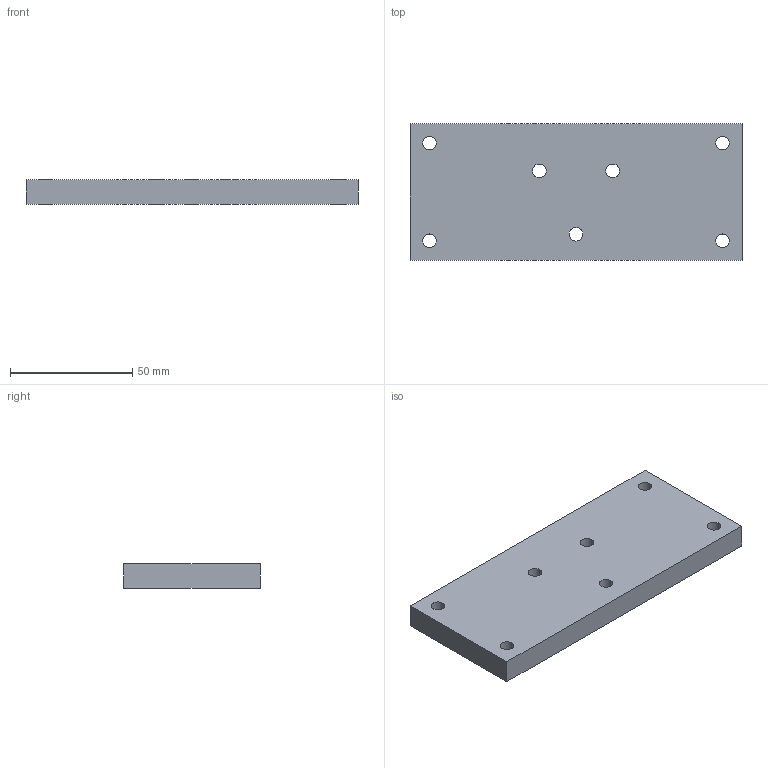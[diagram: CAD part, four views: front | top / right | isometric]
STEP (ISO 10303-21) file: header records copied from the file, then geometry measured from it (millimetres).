
FILE_DESCRIPTION(/* description */ ('STEP AP242','CAx-IF Rec.Pracs.---Representation and Presentation of Product Manufacturing Information (PMI)---4.0---2014-10-13','CAx-IF Rec.Pracs.---3D Tessellated Geometry---0.4---2014-09-14','2;1','CAx-IF Rec.Pracs.---User Defined Attributes---1.5---2016-08-15'),/* implementation_level */ '2;1');
FILE_NAME(/* name */ 'Full Assembly - Part 1 (9)',/* time_stamp */ '2025-11-03T04:00:12Z',/* author */ (''),/* organization */ (''),/* preprocessor_version */ 'ST-DEVELOPER v20',/* originating_system */ 'ONSHAPE BY PTC INC, 1.206',/* authorisation */ ' ');
FILE_SCHEMA (('AP242_MANAGED_MODEL_BASED_3D_ENGINEERING_MIM_LF { 1 0 10303 442 1 1 4 }'));
Length unit declared in the file: metre
Products named in the file (1): Part 1
Bounding box: 136 x 56 x 10 mm (x, y, z)
Volume: 74435.9 mm3; surface area: 19958.7 mm2
Topology: 1 solids, 1 shells, 13 faces, 33 edges, 22 vertices
Faces by surface type: cylinder 7, plane 6
Full cylindrical faces by diameter (mm): 5.6 x7
Entity records: 416 total; most frequent: DIRECTION 68, CARTESIAN_POINT 62, ORIENTED_EDGE 52, EDGE_LOOP 34, FACE_BOUND 34, AXIS2_PLACEMENT_3D 28, EDGE_CURVE 26, VERTEX_POINT 22
